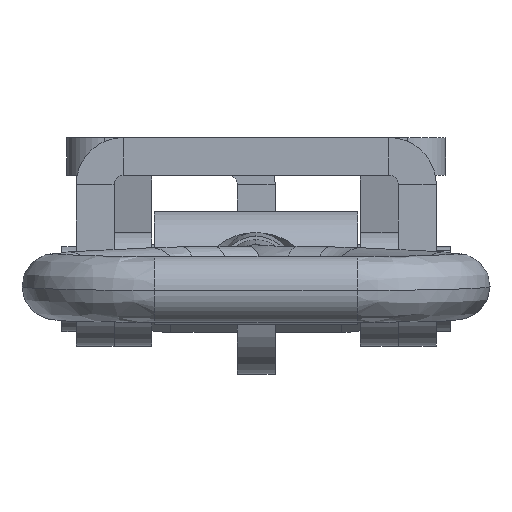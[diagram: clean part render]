
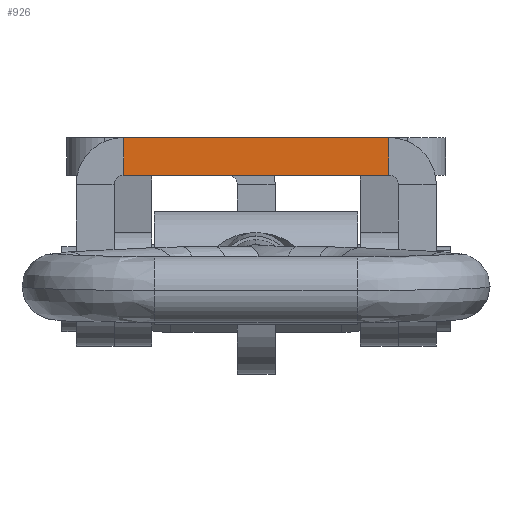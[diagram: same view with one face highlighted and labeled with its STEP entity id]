
A CAD part, front view. The second image highlights one B-rep face of the part: STEP entity #926.
In plain terms, the highlighted planar face has unit normal (0, -1, 0) as drawn and (-1, 0, 0) by its records, which use the part's own axes.
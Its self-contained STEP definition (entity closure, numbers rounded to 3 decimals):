
#195 = LINE ( 'NONE', #2997, #2277 ) ;
#205 = VECTOR ( 'NONE', #3832, 1000. ) ;
#243 = CARTESIAN_POINT ( 'NONE',  ( -23., -4., -6. ) ) ;
#250 = VECTOR ( 'NONE', #3137, 1000. ) ;
#267 = ORIENTED_EDGE ( 'NONE', *, *, #700, .T. ) ;
#498 = DIRECTION ( 'NONE',  ( 0., 0., 1. ) ) ;
#700 = EDGE_CURVE ( 'NONE', #3654, #4780, #900, .T. ) ;
#900 = LINE ( 'NONE', #1473, #4092 ) ;
#926 = ADVANCED_FACE ( 'NONE', ( #5251 ), #4204, .T. ) ;
#1006 = ORIENTED_EDGE ( 'NONE', *, *, #4061, .T. ) ;
#1156 = LINE ( 'NONE', #3417, #205 ) ;
#1392 = DIRECTION ( 'NONE',  ( 0., 0., 1. ) ) ;
#1441 = ORIENTED_EDGE ( 'NONE', *, *, #2827, .F. ) ;
#1473 = CARTESIAN_POINT ( 'NONE',  ( -23., -4., -6. ) ) ;
#1476 = AXIS2_PLACEMENT_3D ( 'NONE', #4627, #1720, #3796 ) ;
#1720 = DIRECTION ( 'NONE',  ( -1., 0., 0. ) ) ;
#1954 = VERTEX_POINT ( 'NONE', #4483 ) ;
#2277 = VECTOR ( 'NONE', #498, 1000. ) ;
#2360 = EDGE_CURVE ( 'NONE', #3654, #1954, #1156, .T. ) ;
#2465 = LINE ( 'NONE', #243, #250 ) ;
#2477 = VERTEX_POINT ( 'NONE', #2662 ) ;
#2611 = EDGE_LOOP ( 'NONE', ( #1441, #4877, #267, #1006 ) ) ;
#2662 = CARTESIAN_POINT ( 'NONE',  ( -23., 0., -6. ) ) ;
#2795 = CARTESIAN_POINT ( 'NONE',  ( -23., -4., -34. ) ) ;
#2827 = EDGE_CURVE ( 'NONE', #1954, #2477, #195, .T. ) ;
#2997 = CARTESIAN_POINT ( 'NONE',  ( -23., 0., -6. ) ) ;
#3137 = DIRECTION ( 'NONE',  ( 0., 1., 0. ) ) ;
#3159 = CARTESIAN_POINT ( 'NONE',  ( -23., -4., -6. ) ) ;
#3417 = CARTESIAN_POINT ( 'NONE',  ( -23., -4., -34. ) ) ;
#3654 = VERTEX_POINT ( 'NONE', #2795 ) ;
#3796 = DIRECTION ( 'NONE',  ( 0., 0., 1. ) ) ;
#3832 = DIRECTION ( 'NONE',  ( 0., 1., 0. ) ) ;
#4061 = EDGE_CURVE ( 'NONE', #4780, #2477, #2465, .T. ) ;
#4092 = VECTOR ( 'NONE', #1392, 1000. ) ;
#4204 = PLANE ( 'NONE',  #1476 ) ;
#4483 = CARTESIAN_POINT ( 'NONE',  ( -23., 0., -34. ) ) ;
#4627 = CARTESIAN_POINT ( 'NONE',  ( -23., -4., -6. ) ) ;
#4780 = VERTEX_POINT ( 'NONE', #3159 ) ;
#4877 = ORIENTED_EDGE ( 'NONE', *, *, #2360, .F. ) ;
#5251 = FACE_OUTER_BOUND ( 'NONE', #2611, .T. ) ;
